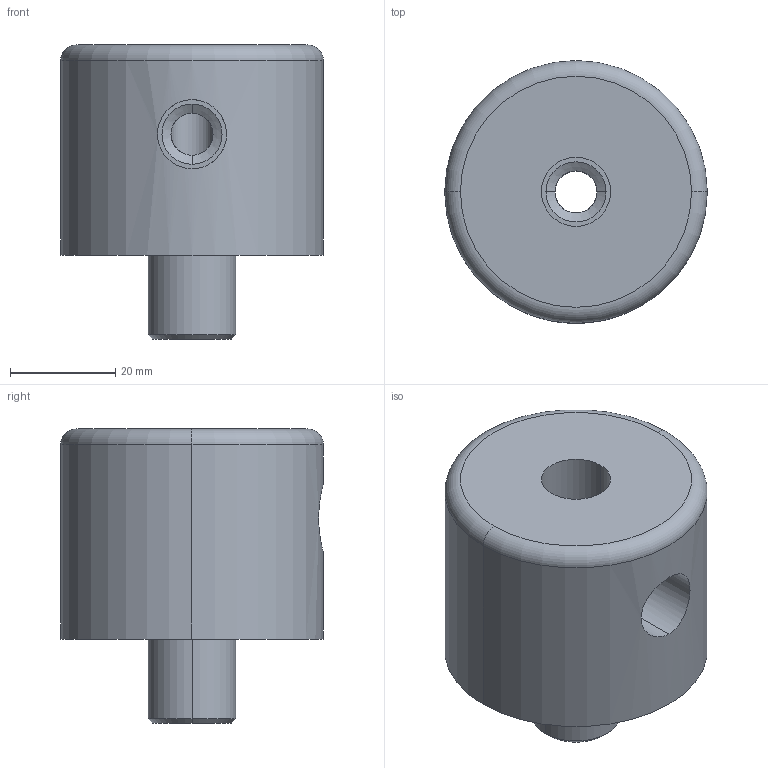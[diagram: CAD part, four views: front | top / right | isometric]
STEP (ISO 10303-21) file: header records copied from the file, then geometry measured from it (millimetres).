
FILE_DESCRIPTION (( 'STEP AP214' ), '1' );
FILE_NAME ('BruyRubio_BR96__3_8_GAS.STEP', '2019-12-17T14:42:18', ( '' ), ( '' ), 'SwSTEP 2.0', 'SolidWorks 2017', '' );
FILE_SCHEMA (( 'AUTOMOTIVE_DESIGN' ));
Length unit declared in the file: millimetre
Products named in the file (1): BruyRubio_BR96__3_8_GAS
Bounding box: 50 x 50 x 56 mm (x, y, z)
Volume: 75972.3 mm3; surface area: 14450.9 mm2
Topology: 2 solids, 2 shells, 35 faces, 74 edges, 44 vertices
Faces by surface type: cylinder 21, cone 6, plane 6, torus 2
Entity records: 1464 total; most frequent: CARTESIAN_POINT 254, DIRECTION 180, ORIENTED_EDGE 148, AXIS2_PLACEMENT_3D 76, EDGE_CURVE 74, VERTEX_POINT 44, EDGE_LOOP 42, CIRCLE 40
